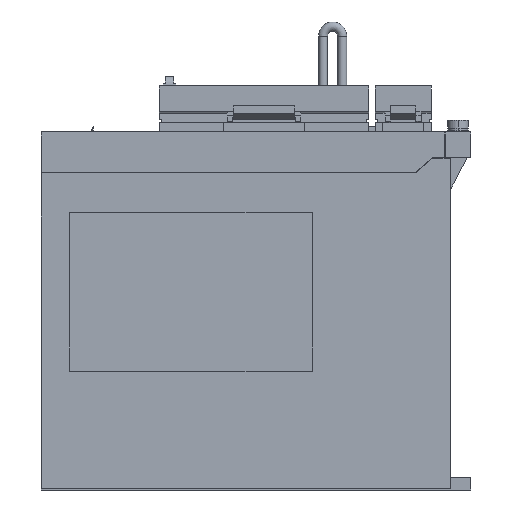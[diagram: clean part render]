
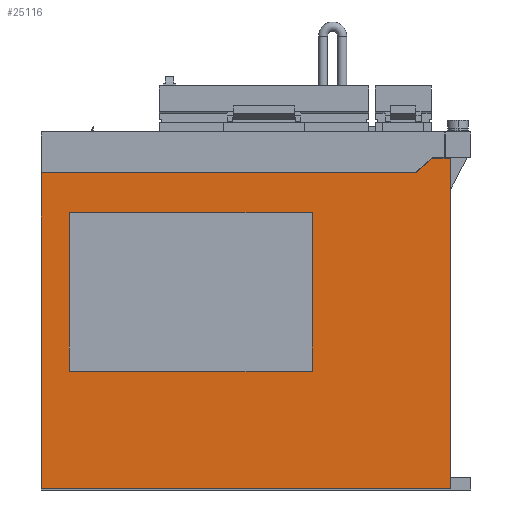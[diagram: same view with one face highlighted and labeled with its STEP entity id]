
A CAD part, left-side view. The second image highlights one B-rep face of the part: STEP entity #25116.
In plain terms, the highlighted planar face has unit normal (-1, 0, 0).
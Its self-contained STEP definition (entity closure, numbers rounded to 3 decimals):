
#22235 = VERTEX_POINT ( 'NONE', #44683 ) ;
#22237 = EDGE_CURVE ( 'NONE', #22235, #22238, #44682, .T. ) ;
#22238 = VERTEX_POINT ( 'NONE', #44678 ) ;
#22749 = VERTEX_POINT ( 'NONE', #45593 ) ;
#22788 = VERTEX_POINT ( 'NONE', #45597 ) ;
#22790 = EDGE_CURVE ( 'NONE', #22749, #22788, #45658, .T. ) ;
#25103 = ORIENTED_EDGE ( 'NONE', *, *, #22237, .F. ) ;
#25104 = ORIENTED_EDGE ( 'NONE', *, *, #25105, .F. ) ;
#25105 = EDGE_CURVE ( 'NONE', #25106, #22235, #49646, .T. ) ;
#25106 = VERTEX_POINT ( 'NONE', #49642 ) ;
#25107 = ORIENTED_EDGE ( 'NONE', *, *, #25108, .F. ) ;
#25108 = EDGE_CURVE ( 'NONE', #25109, #25106, #49641, .T. ) ;
#25109 = VERTEX_POINT ( 'NONE', #49637 ) ;
#25110 = ORIENTED_EDGE ( 'NONE', *, *, #25111, .F. ) ;
#25111 = EDGE_CURVE ( 'NONE', #22749, #25109, #49636, .T. ) ;
#25112 = ORIENTED_EDGE ( 'NONE', *, *, #22790, .T. ) ;
#25116 = ADVANCED_FACE ( 'NONE', ( #49628, #49627 ), #49626, .F. ) ;
#25117 = EDGE_LOOP ( 'NONE', ( #25119, #25123, #25126, #25186 ) ) ;
#25119 = ORIENTED_EDGE ( 'NONE', *, *, #25120, .F. ) ;
#25120 = EDGE_CURVE ( 'NONE', #25121, #25122, #49678, .T. ) ;
#25121 = VERTEX_POINT ( 'NONE', #49674 ) ;
#25122 = VERTEX_POINT ( 'NONE', #49673 ) ;
#25123 = ORIENTED_EDGE ( 'NONE', *, *, #25124, .F. ) ;
#25124 = EDGE_CURVE ( 'NONE', #25125, #25121, #49672, .T. ) ;
#25125 = VERTEX_POINT ( 'NONE', #49668 ) ;
#25126 = ORIENTED_EDGE ( 'NONE', *, *, #25127, .F. ) ;
#25127 = EDGE_CURVE ( 'NONE', #25185, #25125, #49667, .T. ) ;
#25170 = ORIENTED_EDGE ( 'NONE', *, *, #25171, .T. ) ;
#25171 = EDGE_CURVE ( 'NONE', #22788, #22238, #49725, .T. ) ;
#25185 = VERTEX_POINT ( 'NONE', #49762 ) ;
#25186 = ORIENTED_EDGE ( 'NONE', *, *, #25187, .F. ) ;
#25187 = EDGE_CURVE ( 'NONE', #25122, #25185, #49761, .T. ) ;
#25188 = EDGE_LOOP ( 'NONE', ( #25103, #25104, #25107, #25110, #25112, #25170 ) ) ;
#44678 = CARTESIAN_POINT ( 'NONE',  ( -35., -155., 0.5 ) ) ;
#44679 = DIRECTION ( 'NONE',  ( 0., 0., -1. ) ) ;
#44680 = VECTOR ( 'NONE', #44679, 1000. ) ;
#44681 = CARTESIAN_POINT ( 'NONE',  ( -35., -155., 290.208 ) ) ;
#44682 = LINE ( 'NONE', #44681, #44680 ) ;
#44683 = CARTESIAN_POINT ( 'NONE',  ( -35., -155., 129.8 ) ) ;
#45593 = CARTESIAN_POINT ( 'NONE',  ( -35., 5., 124. ) ) ;
#45597 = CARTESIAN_POINT ( 'NONE',  ( -35., 5., 0.5 ) ) ;
#45655 = DIRECTION ( 'NONE',  ( 0., 0., -1. ) ) ;
#45656 = VECTOR ( 'NONE', #45655, 1000. ) ;
#45657 = CARTESIAN_POINT ( 'NONE',  ( -35., 5., 290.208 ) ) ;
#45658 = LINE ( 'NONE', #45657, #45656 ) ;
#49622 = DIRECTION ( 'NONE',  ( 0., 0., -1. ) ) ;
#49623 = DIRECTION ( 'NONE',  ( 1., 0., 0. ) ) ;
#49624 = CARTESIAN_POINT ( 'NONE',  ( -35., 5., 290.208 ) ) ;
#49625 = AXIS2_PLACEMENT_3D ( 'NONE', #49624, #49623, #49622 ) ;
#49626 = PLANE ( 'NONE',  #49625 ) ;
#49627 = FACE_OUTER_BOUND ( 'NONE', #25188, .T. ) ;
#49628 = FACE_BOUND ( 'NONE', #25117, .T. ) ;
#49633 = DIRECTION ( 'NONE',  ( 0., -1., 0. ) ) ;
#49634 = VECTOR ( 'NONE', #49633, 1000. ) ;
#49635 = CARTESIAN_POINT ( 'NONE',  ( -35., 13.365, 124. ) ) ;
#49636 = LINE ( 'NONE', #49635, #49634 ) ;
#49637 = CARTESIAN_POINT ( 'NONE',  ( -35., -141.328, 124. ) ) ;
#49638 = DIRECTION ( 'NONE',  ( 0., -0.755, 0.656 ) ) ;
#49639 = VECTOR ( 'NONE', #49638, 1000. ) ;
#49640 = CARTESIAN_POINT ( 'NONE',  ( -35., -141.328, 124. ) ) ;
#49641 = LINE ( 'NONE', #49640, #49639 ) ;
#49642 = CARTESIAN_POINT ( 'NONE',  ( -35., -148., 129.8 ) ) ;
#49643 = DIRECTION ( 'NONE',  ( 0., -1., 0. ) ) ;
#49644 = VECTOR ( 'NONE', #49643, 1000. ) ;
#49645 = CARTESIAN_POINT ( 'NONE',  ( -35., -153., 129.8 ) ) ;
#49646 = LINE ( 'NONE', #49645, #49644 ) ;
#49664 = DIRECTION ( 'NONE',  ( 0., 0., -1. ) ) ;
#49665 = VECTOR ( 'NONE', #49664, 1000. ) ;
#49666 = CARTESIAN_POINT ( 'NONE',  ( -35., -6., 46.5 ) ) ;
#49667 = LINE ( 'NONE', #49666, #49665 ) ;
#49668 = CARTESIAN_POINT ( 'NONE',  ( -35., -6., 46.5 ) ) ;
#49669 = DIRECTION ( 'NONE',  ( 0., -1., 0. ) ) ;
#49670 = VECTOR ( 'NONE', #49669, 1000. ) ;
#49671 = CARTESIAN_POINT ( 'NONE',  ( -35., -6., 46.5 ) ) ;
#49672 = LINE ( 'NONE', #49671, #49670 ) ;
#49673 = CARTESIAN_POINT ( 'NONE',  ( -35., -101., 108.5 ) ) ;
#49674 = CARTESIAN_POINT ( 'NONE',  ( -35., -101., 46.5 ) ) ;
#49675 = DIRECTION ( 'NONE',  ( 0., 0., 1. ) ) ;
#49676 = VECTOR ( 'NONE', #49675, 1000. ) ;
#49677 = CARTESIAN_POINT ( 'NONE',  ( -35., -101., 46.5 ) ) ;
#49678 = LINE ( 'NONE', #49677, #49676 ) ;
#49722 = DIRECTION ( 'NONE',  ( 0., -1., 0. ) ) ;
#49723 = VECTOR ( 'NONE', #49722, 1000. ) ;
#49724 = CARTESIAN_POINT ( 'NONE',  ( -35., 5., 0.5 ) ) ;
#49725 = LINE ( 'NONE', #49724, #49723 ) ;
#49758 = DIRECTION ( 'NONE',  ( 0., 1., 0. ) ) ;
#49759 = VECTOR ( 'NONE', #49758, 1000. ) ;
#49760 = CARTESIAN_POINT ( 'NONE',  ( -35., -6., 108.5 ) ) ;
#49761 = LINE ( 'NONE', #49760, #49759 ) ;
#49762 = CARTESIAN_POINT ( 'NONE',  ( -35., -6., 108.5 ) ) ;
